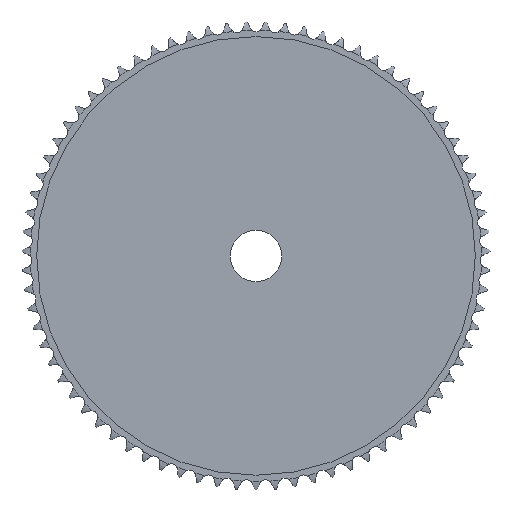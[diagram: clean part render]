
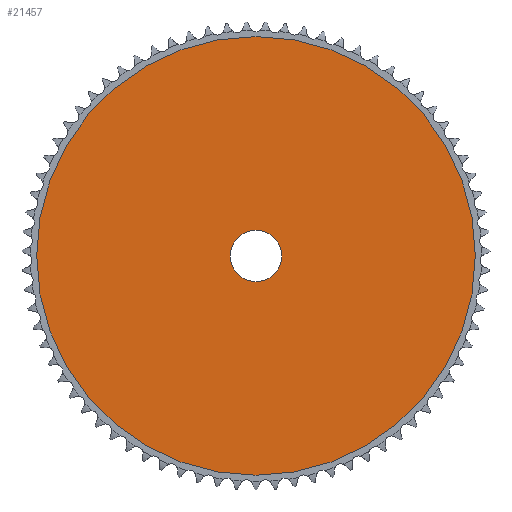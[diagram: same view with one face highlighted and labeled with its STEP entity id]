
A CAD part, top view. The second image highlights one B-rep face of the part: STEP entity #21457.
In plain terms, the highlighted planar face has unit normal (0, 0, 1).
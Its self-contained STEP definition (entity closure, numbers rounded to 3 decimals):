
#12098=CARTESIAN_POINT('',(0.,0.,2.));
#12099=DIRECTION('',(0.,0.,-1.));
#12100=DIRECTION('',(-1.,0.,0.));
#12101=AXIS2_PLACEMENT_3D('',#12098,#12099,#12100);
#12106=CARTESIAN_POINT('',(0.,0.,2.));
#12107=DIRECTION('',(0.,0.,-1.));
#12108=DIRECTION('',(1.,0.,0.));
#12109=AXIS2_PLACEMENT_3D('',#12106,#12107,#12108);
#12114=CARTESIAN_POINT('',(0.,0.,2.));
#12115=DIRECTION('',(0.,0.,1.));
#12116=DIRECTION('',(1.,0.,0.));
#12117=AXIS2_PLACEMENT_3D('',#12114,#12115,#12116);
#12122=CARTESIAN_POINT('',(0.,0.,2.));
#12123=DIRECTION('',(0.,0.,1.));
#12124=DIRECTION('',(-1.,0.,0.));
#12125=AXIS2_PLACEMENT_3D('',#12122,#12123,#12124);
#13390=CARTESIAN_POINT('',(-68.141,0.,2.));
#13391=CARTESIAN_POINT('',(68.141,0.,2.));
#13392=VERTEX_POINT('',#13390);
#13393=VERTEX_POINT('',#13391);
#13410=CARTESIAN_POINT('',(8.,0.,2.));
#13411=VERTEX_POINT('',#13410);
#13412=CARTESIAN_POINT('',(-8.,0.,2.));
#13413=VERTEX_POINT('',#13412);
#21442=CARTESIAN_POINT('',(0.,0.,2.));
#21443=DIRECTION('',(0.,0.,1.));
#21444=DIRECTION('',(1.,0.,0.));
#21445=AXIS2_PLACEMENT_3D('',#21442,#21443,#21444);
#21446=PLANE('',#21445);
#21447=ORIENTED_EDGE('',*,*,#21394,.T.);
#21448=ORIENTED_EDGE('',*,*,#21423,.T.);
#21449=EDGE_LOOP('',(#21447,#21448));
#21450=FACE_OUTER_BOUND('',#21449,.F.);
#21452=ORIENTED_EDGE('',*,*,#21451,.T.);
#21454=ORIENTED_EDGE('',*,*,#21453,.T.);
#21455=EDGE_LOOP('',(#21452,#21454));
#21456=FACE_BOUND('',#21455,.F.);
#21457=ADVANCED_FACE('',(#21450,#21456),#21446,.T.);
#12102=CIRCLE('',#12101,68.141);
#12110=CIRCLE('',#12109,68.141);
#12118=CIRCLE('',#12117,8.);
#12126=CIRCLE('',#12125,8.);
#21394=EDGE_CURVE('',#13392,#13393,#12102,.T.);
#21423=EDGE_CURVE('',#13393,#13392,#12110,.T.);
#21451=EDGE_CURVE('',#13411,#13413,#12118,.T.);
#21453=EDGE_CURVE('',#13413,#13411,#12126,.T.);
